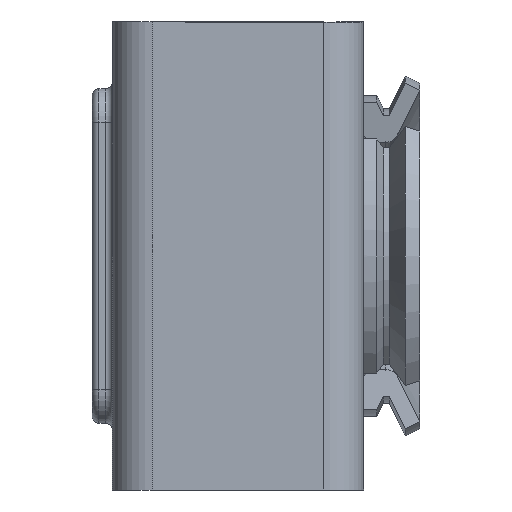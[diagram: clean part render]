
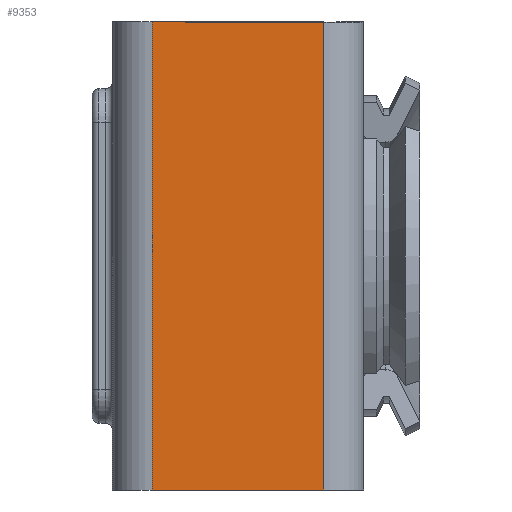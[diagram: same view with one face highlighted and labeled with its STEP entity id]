
A CAD part, left-side view. The second image highlights one B-rep face of the part: STEP entity #9353.
In plain terms, the highlighted planar face has unit normal (-1, 0, 0).
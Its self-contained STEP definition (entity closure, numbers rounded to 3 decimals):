
#328 = EDGE_CURVE ( 'NONE', #578, #6111, #1958, .T. ) ;
#378 = CARTESIAN_POINT ( 'NONE',  ( -1.85, 0.2, -1.75 ) ) ;
#578 = VERTEX_POINT ( 'NONE', #928 ) ;
#895 = VECTOR ( 'NONE', #2448, 1000. ) ;
#928 = CARTESIAN_POINT ( 'NONE',  ( -1.85, 0.2, -1.75 ) ) ;
#1806 = CARTESIAN_POINT ( 'NONE',  ( -1.85, -1.08, -1.75 ) ) ;
#1958 = LINE ( 'NONE', #7457, #6089 ) ;
#2310 = PLANE ( 'NONE',  #2459 ) ;
#2419 = CARTESIAN_POINT ( 'NONE',  ( -1.85, -1.18, -1.75 ) ) ;
#2448 = DIRECTION ( 'NONE',  ( 0., 0., 1. ) ) ;
#2459 = AXIS2_PLACEMENT_3D ( 'NONE', #2419, #5601, #5555 ) ;
#2963 = CARTESIAN_POINT ( 'NONE',  ( -1.85, -1.18, 1.75 ) ) ;
#3194 = ORIENTED_EDGE ( 'NONE', *, *, #9524, .F. ) ;
#3195 = EDGE_LOOP ( 'NONE', ( #5333, #9735, #8352, #3194 ) ) ;
#3209 = LINE ( 'NONE', #1806, #895 ) ;
#3615 = CARTESIAN_POINT ( 'NONE',  ( -1.85, -1.08, -1.75 ) ) ;
#5330 = EDGE_CURVE ( 'NONE', #6111, #7832, #3209, .T. ) ;
#5333 = ORIENTED_EDGE ( 'NONE', *, *, #328, .T. ) ;
#5555 = DIRECTION ( 'NONE',  ( 0., 0., -1. ) ) ;
#5601 = DIRECTION ( 'NONE',  ( 1., 0., 0. ) ) ;
#6064 = VECTOR ( 'NONE', #9751, 1000. ) ;
#6089 = VECTOR ( 'NONE', #8860, 1000. ) ;
#6111 = VERTEX_POINT ( 'NONE', #3615 ) ;
#6651 = VECTOR ( 'NONE', #7648, 1000. ) ;
#7305 = EDGE_CURVE ( 'NONE', #9107, #7832, #7694, .T. ) ;
#7457 = CARTESIAN_POINT ( 'NONE',  ( -1.85, -1.18, -1.75 ) ) ;
#7648 = DIRECTION ( 'NONE',  ( 0., -1., 0. ) ) ;
#7694 = LINE ( 'NONE', #2963, #6651 ) ;
#7757 = FACE_OUTER_BOUND ( 'NONE', #3195, .T. ) ;
#7832 = VERTEX_POINT ( 'NONE', #9756 ) ;
#8352 = ORIENTED_EDGE ( 'NONE', *, *, #7305, .F. ) ;
#8837 = LINE ( 'NONE', #378, #6064 ) ;
#8860 = DIRECTION ( 'NONE',  ( 0., -1., 0. ) ) ;
#9091 = CARTESIAN_POINT ( 'NONE',  ( -1.85, 0.2, 1.75 ) ) ;
#9107 = VERTEX_POINT ( 'NONE', #9091 ) ;
#9353 = ADVANCED_FACE ( 'NONE', ( #7757 ), #2310, .F. ) ;
#9524 = EDGE_CURVE ( 'NONE', #578, #9107, #8837, .T. ) ;
#9735 = ORIENTED_EDGE ( 'NONE', *, *, #5330, .T. ) ;
#9751 = DIRECTION ( 'NONE',  ( 0., 0., 1. ) ) ;
#9756 = CARTESIAN_POINT ( 'NONE',  ( -1.85, -1.08, 1.75 ) ) ;
